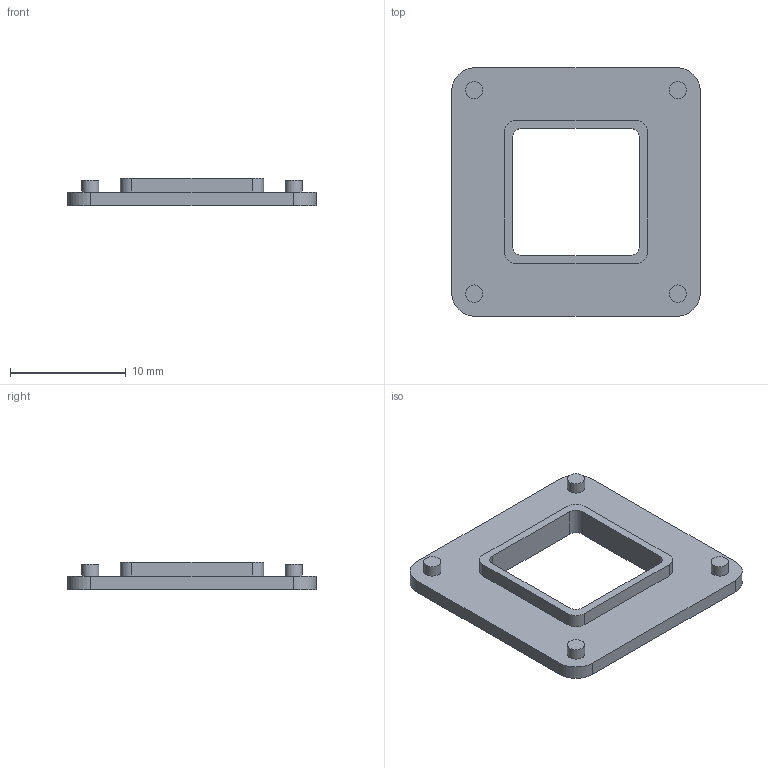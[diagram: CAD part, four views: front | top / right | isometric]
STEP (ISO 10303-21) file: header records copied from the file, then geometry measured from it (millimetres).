
FILE_DESCRIPTION(('Open CASCADE Model'),'2;1');
FILE_NAME('Open CASCADE Shape Model','2026-09-06T11:45:45',('Author'),( 'Open CASCADE'),'Open CASCADE STEP processor 7.7','Open CASCADE 7.7' ,'Unknown');
FILE_SCHEMA(('AUTOMOTIVE_DESIGN { 1 0 10303 214 1 1 1 1 }'));
Length unit declared in the file: millimetre
Products named in the file (1): Open CASCADE STEP translator 7.7 10
Bounding box: 21.5 x 21.5 x 2.4 mm (x, y, z)
Volume: 452 mm3; surface area: 954.4 mm2
Topology: 1 solids, 1 shells, 35 faces, 84 edges, 56 vertices
Faces by surface type: plane 19, cylinder 16
Full cylindrical faces by diameter (mm): 1.5 x4
Entity records: 2160 total; most frequent: CARTESIAN_POINT 392, DIRECTION 348, LINE 188, VECTOR 188, ORIENTED_EDGE 168, PCURVE 168, DEFINITIONAL_REPRESENTATION 168, EDGE_CURVE 84
